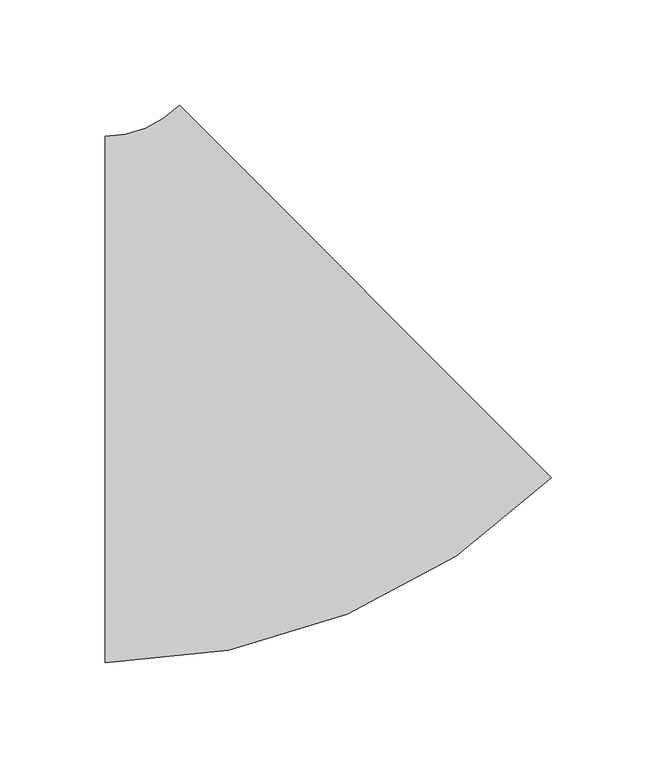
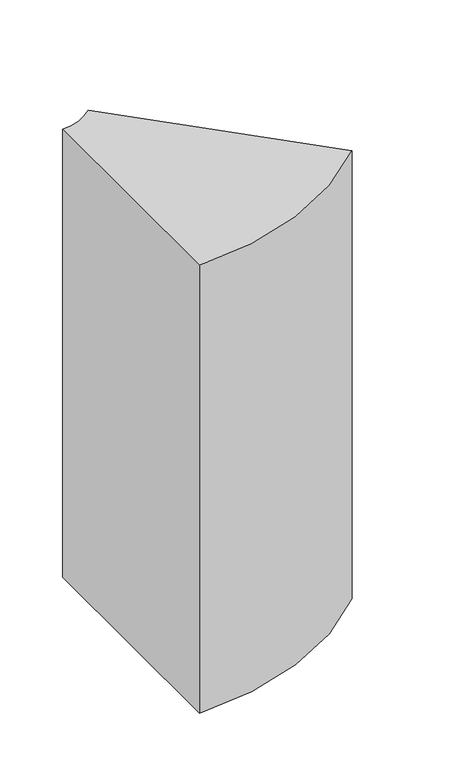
"""IFC4 building model written with IfcOpenShell, lengths in millimetres: duct fitting geometry, ADSK_ОтводВоздуховодов_Прямоугольный1 : Стандарт 2."""

import ifcopenshell
import ifcopenshell.guid

model = None  # the IFC model being written
_history = None  # IfcOwnerHistory: only IFC2X3 demands one
_inside = {}  # id of a spatial element -> (the spatial element, [elements in it])
_under = {}  # id of a project, library or spatial element -> (it, [spatial elements below it])
_declared = {}  # id of a project -> (the project, [libraries it declares])
_typed = {}  # id of a type object -> (the type object, [elements of that type])
_made_of = {}  # id of a material, layer set ... -> (it, [elements and type objects made of it])


def new_model(schema):
    """Start an empty IFC model of exactly this schema.

    Asked for "IFC4X3", IfcOpenShell would pick the latest addendum, in which some entities
    have other attributes; the version numbers below select the first issue.
    IFC2X3 requires an IfcOwnerHistory on every rooted entity: one is made here for all.
    """
    global model, _history
    if schema == "IFC4X3":
        model = ifcopenshell.file(schema_version=(4, 3, 0, 0))
    else:
        model = ifcopenshell.file(schema=schema)
    _inside.clear()
    _under.clear()
    _declared.clear()
    _typed.clear()
    _made_of.clear()
    _history = None
    if model.schema == "IFC2X3":
        org = make("IfcOrganization", Name="unknown")
        user = make(
            "IfcPersonAndOrganization",
            ThePerson=make("IfcPerson", FamilyName="unknown"),
            TheOrganization=org,
        )
        app = make(
            "IfcApplication",
            ApplicationDeveloper=org,
            Version="unknown",
            ApplicationFullName="unknown",
            ApplicationIdentifier="unknown",
        )
        _history = make(
            "IfcOwnerHistory",
            OwningUser=user,
            OwningApplication=app,
            ChangeAction="ADDED",
            CreationDate=0,
        )
    return model


def make(cls, **values):
    """One entity of the class cls with the attributes given. An attribute that is None is left unset."""
    return model.create_entity(
        cls, **{name: value for name, value in values.items() if value is not None}
    )


def rooted(cls, **values):
    """An entity with a GlobalId (a new one), such as an element, a storey or a relation."""
    return make(cls, GlobalId=ifcopenshell.guid.new(), OwnerHistory=_history, **values)


def si_unit(unit_type, name, prefix=None):
    """IfcSIUnit, for example si_unit("LENGTHUNIT", "METRE", prefix="MILLI")."""
    return make("IfcSIUnit", UnitType=unit_type, Prefix=prefix, Name=name)


def assignment(units):
    """IfcUnitAssignment: the units of a project."""
    return None if units is None else make("IfcUnitAssignment", Units=units)


def point(xyz):
    """IfcCartesianPoint."""
    return None if xyz is None else make("IfcCartesianPoint", Coordinates=xyz)


def direction(xyz):
    """IfcDirection."""
    return None if xyz is None else make("IfcDirection", DirectionRatios=xyz)


def frame(location, z_axis=None, x_axis=None):
    """IfcAxis2Placement3D, a coordinate frame: its origin and axes. An axis left out is left unset."""
    return make(
        "IfcAxis2Placement3D",
        Location=point(location),
        Axis=direction(z_axis),
        RefDirection=direction(x_axis),
    )


def frame_2d(location, x_axis=None):
    """IfcAxis2Placement2D, a coordinate frame in the plane: its origin and x axis."""
    return make(
        "IfcAxis2Placement2D", Location=point(location), RefDirection=direction(x_axis)
    )


def origin():
    """The frame at (0, 0, 0) with its axes left unset."""
    return frame((0.0, 0.0, 0.0))


def place(relative_to, where):
    """IfcLocalPlacement: puts the frame where relative to a parent placement (None: the world)."""
    return make(
        "IfcLocalPlacement", PlacementRelTo=relative_to, RelativePlacement=where
    )


def context(
    kind, dimensions, precision=None, world=None, true_north=None, identifier=None
):
    """IfcGeometricRepresentationContext, for example the 3D "Model" context."""
    return make(
        "IfcGeometricRepresentationContext",
        ContextIdentifier=identifier,
        ContextType=kind,
        CoordinateSpaceDimension=dimensions,
        Precision=precision,
        WorldCoordinateSystem=world,
        TrueNorth=true_north,
    )


def project(units=None, contexts=None):
    """IfcProject with its units and contexts."""
    return rooted(
        "IfcProject",
        Name="project",
        RepresentationContexts=contexts,
        UnitsInContext=assignment(units),
    )


def spatial(cls, under=None, at=None, **own):
    """A site, building, storey or space (cls), placed at a placement, below another one or the project."""
    s = rooted(cls, ObjectPlacement=at, **own)
    if under is not None:
        _under.setdefault(under.id(), (under, []))[1].append(s)
    return s


def polyline(points):
    """IfcPolyline through the points."""
    return make("IfcPolyline", Points=[point(p) for p in points])


def circle_curve(where, radius):
    """IfcCircle in the frame where."""
    return make("IfcCircle", Position=where, Radius=radius)


def trimmed(basis, trim1, trim2, sense, master):
    """IfcTrimmedCurve: the piece of a basis curve between two trims."""
    return make(
        "IfcTrimmedCurve",
        BasisCurve=basis,
        Trim1=trim1,
        Trim2=trim2,
        SenseAgreement=sense,
        MasterRepresentation=master,
    )


def segment(curve, same_sense, transition):
    """IfcCompositeCurveSegment."""
    return make(
        "IfcCompositeCurveSegment",
        Transition=transition,
        SameSense=same_sense,
        ParentCurve=curve,
    )


def composite_curve(segments, self_intersect=None):
    """IfcCompositeCurve: segments joined end to end."""
    return make("IfcCompositeCurve", Segments=segments, SelfIntersect=self_intersect)


def outline(outer, holes=None, kind="AREA"):
    """IfcArbitraryClosedProfileDef: a profile drawn as a closed curve; with holes, ...WithVoids."""
    if holes is None:
        return make("IfcArbitraryClosedProfileDef", ProfileType=kind, OuterCurve=outer)
    return make(
        "IfcArbitraryProfileDefWithVoids",
        ProfileType=kind,
        OuterCurve=outer,
        InnerCurves=holes,
    )


def extrude(swept, where, along, depth):
    """IfcExtrudedAreaSolid: the profile swept, set in the frame where, extruded along a direction by depth."""
    return make(
        "IfcExtrudedAreaSolid",
        SweptArea=swept,
        Position=where,
        ExtrudedDirection=direction(along),
        Depth=depth,
    )


def shape(context_of_items, identifier, shape_type, items):
    """IfcShapeRepresentation: the items that make up one representation, for example the "Body"."""
    return make(
        "IfcShapeRepresentation",
        ContextOfItems=context_of_items,
        RepresentationIdentifier=identifier,
        RepresentationType=shape_type,
        Items=items,
    )


def source(mapping_origin, context_of_items, identifier, shape_type, items):
    """IfcRepresentationMap: a shape defined once, which mapped items show again and again."""
    return make(
        "IfcRepresentationMap",
        MappingOrigin=mapping_origin,
        MappedRepresentation=shape(context_of_items, identifier, shape_type, items),
    )


def transform(
    local_origin,
    x_axis=None,
    y_axis=None,
    z_axis=None,
    scale=None,
    scale2=None,
    scale3=None,
    uniform=True,
):
    """IfcCartesianTransformationOperator3D, or its non-uniform kind. x_axis, y_axis, z_axis: its Axis1, 2, 3."""
    if uniform:
        return make(
            "IfcCartesianTransformationOperator3D",
            Axis1=direction(x_axis),
            Axis2=direction(y_axis),
            LocalOrigin=point(local_origin),
            Scale=scale,
            Axis3=direction(z_axis),
        )
    return make(
        "IfcCartesianTransformationOperator3DnonUniform",
        Axis1=direction(x_axis),
        Axis2=direction(y_axis),
        LocalOrigin=point(local_origin),
        Scale=scale,
        Axis3=direction(z_axis),
        Scale2=scale2,
        Scale3=scale3,
    )


def mapped(mapping_source, mapping_target):
    """IfcMappedItem: shows the shape of a source again, moved by a transform."""
    return make(
        "IfcMappedItem", MappingSource=mapping_source, MappingTarget=mapping_target
    )


def made_of(thing, what):
    """Note that an element or type object is made of a material, layer set ...; save() writes the relation."""
    if what is not None:
        _made_of.setdefault(what.id(), (what, []))[1].append(thing)
    return thing


def element(
    cls,
    number,
    at=None,
    inside=None,
    cuts=None,
    type_object=None,
    material=None,
    context=None,
    identifier="Body",
    shape_type=None,
    held_by="IfcProductDefinitionShape",
    body=None,
    shapes=None,
    **own,
):
    """One element of the class cls, such as IfcWall. Its Tag is "e" and its number.

    at: its placement. inside: the storey or other place that contains it. cuts: it is an
    opening in that element (IfcRelVoidsElement). A single representation is given by context,
    identifier, shape_type and body (its items); several are given by shapes. held_by: the class
    of the entity that holds the representations. save() writes the other relations.
    """
    e = rooted(cls, Tag="e%d" % number, ObjectPlacement=at, **own)
    if body is not None:
        shapes = [shape(context, identifier, shape_type, body)]
    if shapes is not None:
        e.Representation = make(held_by, Representations=shapes)
    if inside is not None:
        _inside.setdefault(inside.id(), (inside, []))[1].append(e)
    if cuts is not None:
        rooted(
            "IfcRelVoidsElement", RelatingBuildingElement=cuts, RelatedOpeningElement=e
        )
    if type_object is not None:
        _typed.setdefault(type_object.id(), (type_object, []))[1].append(e)
    return made_of(e, material)


def aggregate(whole, parts):
    """IfcRelAggregates: a whole, such as a stair, and the parts it consists of."""
    return rooted("IfcRelAggregates", RelatingObject=whole, RelatedObjects=parts)


def save(model, path):
    """Write the relations noted so far, then the file.

    IfcRelAggregates (storeys below a building ...), IfcRelContainedInSpatialStructure (elements
    in a storey), IfcRelDefinesByType, IfcRelAssociatesMaterial and IfcRelDeclares: one each for
    every whole, place, type object, material and project.
    """
    for whole, parts in _under.values():
        aggregate(whole, parts)
    for where, things in _inside.values():
        rooted(
            "IfcRelContainedInSpatialStructure",
            RelatedElements=things,
            RelatingStructure=where,
        )
    for kind, things in _typed.values():
        rooted("IfcRelDefinesByType", RelatedObjects=things, RelatingType=kind)
    for what, things in _made_of.values():
        rooted("IfcRelAssociatesMaterial", RelatedObjects=things, RelatingMaterial=what)
    for by, libraries in _declared.values():
        rooted("IfcRelDeclares", RelatingContext=by, RelatedDefinitions=libraries)
    model.write(path)


def duct_fitting_a8f1dc46(model_context):
    return source(origin(), model_context, "Body", "SweptSolid", [
        extrude(outline(composite_curve([segment(trimmed(circle_curve(frame_2d((-72.4873734, 175.0)), 300.0), [point((139.6446609, -37.1320344))], [point((-72.4873734, -125.0))], False, "CARTESIAN"), True, "CONTINUOUS"), segment(polyline([(-72.4873734, -125.0), (-72.4873734, 125.0)]), True, "CONTINUOUS"), segment(trimmed(circle_curve(frame_2d((-72.4873734, 175.0)), 50.0), [point((-72.4873734, 125.0))], [point((-37.1320344, 139.6446609))], True, "CARTESIAN"), True, "CONTINUOUS"), segment(polyline([(-37.1320344, 139.6446609), (139.6446609, -37.1320344)]), True, "CONTINUOUS")], self_intersect=False)), frame((0.0, 0.0, -250.0), z_axis=(0.0, 0.0, 1.0), x_axis=(1.0, 0.0, 0.0)), (0.0, 0.0, 1.0), 500.0),
    ])


if __name__ == "__main__":
    model = new_model("IFC4")
    model_context = context("Model", 3, world=origin())
    ifc_project = project(units=[si_unit("LENGTHUNIT", "METRE", prefix="MILLI")], contexts=[model_context])
    site = spatial("IfcSite", under=ifc_project)
    building = spatial("IfcBuilding", under=site)
    placement = place(None, origin())
    duct_fitting_shape = duct_fitting_a8f1dc46(model_context)
    element("IfcDuctFitting", 1, ObjectType="ADSK_ОтводВоздуховодов_Прямоугольный1 : Стандарт 2", at=placement, inside=building, context=model_context, shape_type="MappedRepresentation", body=[
        mapped(duct_fitting_shape, transform((0.0, 0.0, 0.0), x_axis=(1.0, 0.0, 0.0), y_axis=(0.0, 1.0, 0.0), z_axis=(0.0, 0.0, 1.0))),
    ])
    save(model, "model.ifc")
